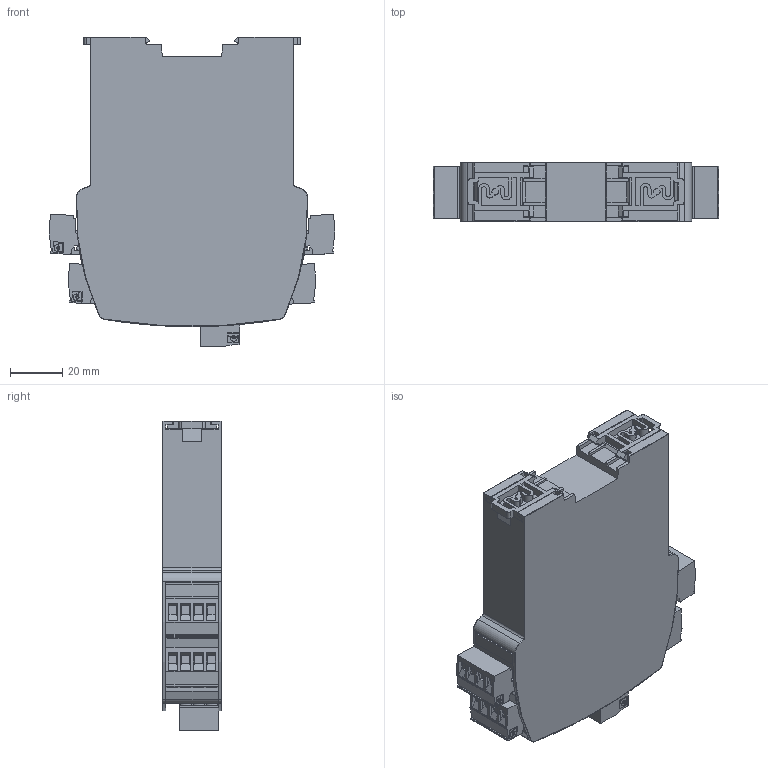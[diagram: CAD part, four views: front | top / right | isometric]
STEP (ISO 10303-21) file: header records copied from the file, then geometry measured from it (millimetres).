
FILE_DESCRIPTION (( 'STEP AP214' ), '1' );
FILE_NAME ('V604s.STEP', '2018-10-24T12:47:49', ( '' ), ( '' ), 'SwSTEP 2.0', 'SolidWorks 2018', '' );
FILE_SCHEMA (( 'AUTOMOTIVE_DESIGN' ));
Length unit declared in the file: millimetre
Products named in the file (8): 162719_Schnapper U4_1; 3-Fach Schraubklemme_1; 4-Fach Schraubklemme_1; V604s Schild f STEP_1; Innereien kpl_2; 002 Innereien_2; 169632_Haltegehäuse Für STEP_2; V604s
Assembly tree (14 placements, depth 3):
  V604s
    169632_Haltegehäuse Für STEP_2
    Innereien kpl_2
      002 Innereien_2
    V604s Schild f STEP_1  x2
    4-Fach Schraubklemme_1  x4
    3-Fach Schraubklemme_1
    162719_Schnapper U4_1  x4
Bounding box: 109.57 x 22.5 x 118.77 mm (x, y, z)
Volume: 184742.6 mm3; surface area: 88289.1 mm2
Topology: 9 solids, 29 shells, 2866 faces, 7920 edges, 5380 vertices
Faces by surface type: plane 2082, cylinder 599, bspline 142, cone 35, torus 8
Entity records: 67503 total; most frequent: CARTESIAN_POINT 16668, ORIENTED_EDGE 7852, DIRECTION 6052, EDGE_CURVE 3934, VERTEX_POINT 2647, VECTOR 2192, LINE 2192, AXIS2_PLACEMENT_3D 1930
